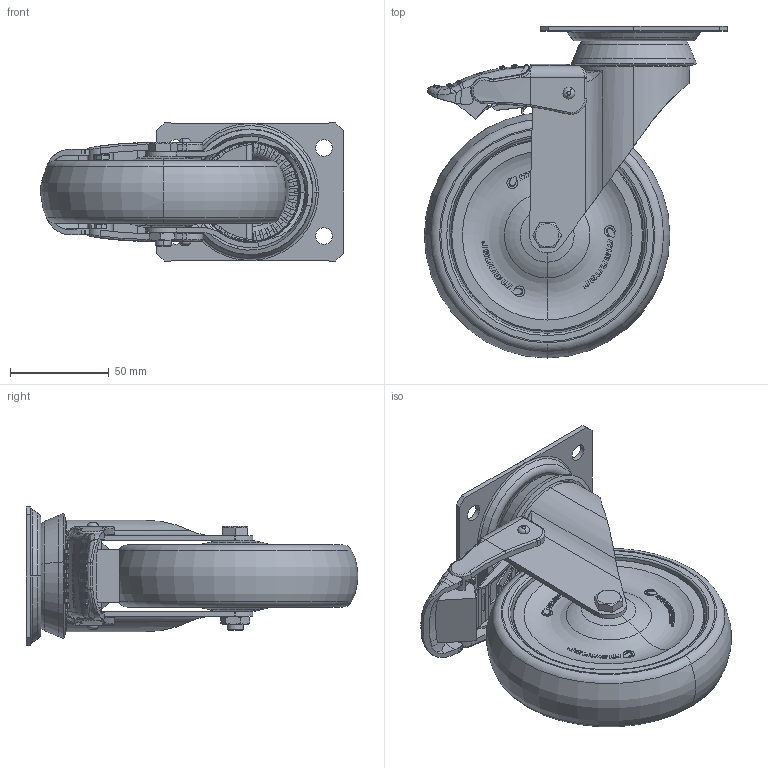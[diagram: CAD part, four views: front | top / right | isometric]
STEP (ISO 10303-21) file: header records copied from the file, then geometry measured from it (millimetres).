
FILE_DESCRIPTION (( 'STEP AP203' ), '1' );
FILE_NAME ('300900_STEP.STEP', '2012-03-06T06:58:43', ( '' ), ( '' ), 'SwSTEP 2.0', 'SolidWorks 2011', '' );
FILE_SCHEMA (( 'CONFIG_CONTROL_DESIGN' ));
Length unit declared in the file: millimetre
Products named in the file (1): 300900_STEP
Bounding box: 153.75 x 168.27 x 70 mm (x, y, z)
Surface area: 138400.6 mm2 (no closed solid volume)
Topology: 0 solids, 25 shells, 1141 faces, 4928 edges, 3642 vertices
Faces by surface type: plane 460, bspline 309, cylinder 210, torus 107, cone 51, sphere 4
Entity records: 78474 total; most frequent: CARTESIAN_POINT 46246, ORIENTED_EDGE 7275, EDGE_CURVE 4923, DIRECTION 4057, VERTEX_POINT 3642, B_SPLINE_CURVE_WITH_KNOTS 2923, VECTOR 1381, LINE 1381
